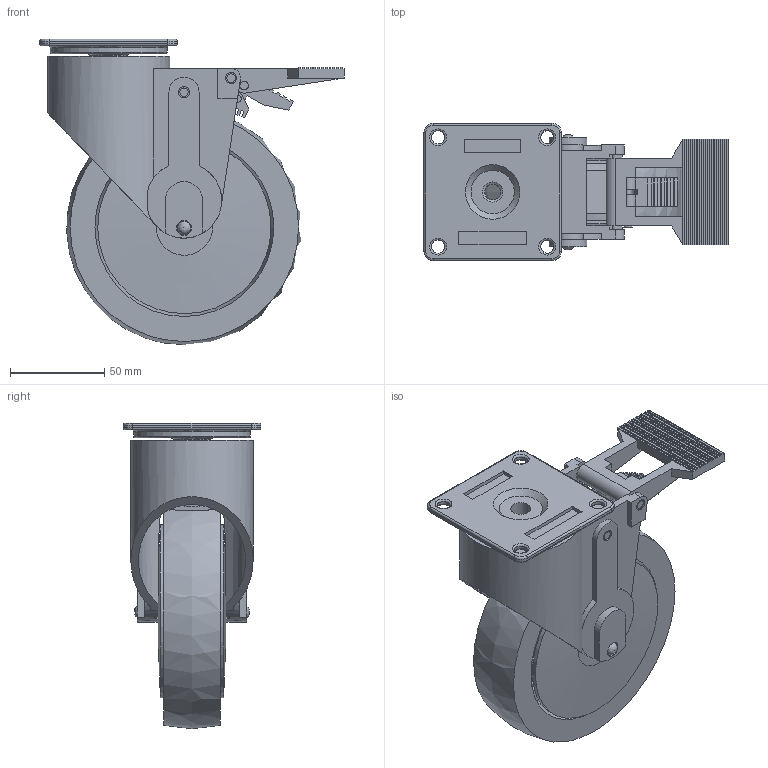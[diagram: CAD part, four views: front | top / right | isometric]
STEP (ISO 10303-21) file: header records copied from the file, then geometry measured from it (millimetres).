
FILE_DESCRIPTION((''),'2;1');
FILE_NAME('C:\Documents and Settings\Administrator\바탕 화면\2011년도\도면 및 견적서 발송\지덕 전체도면\3D도면\GDC\GDC-125-BSF\GDC-125BSF.stp','2012-02-03T09:23:36',('Administrator'),(''),'Autodesk Inventor 2009','Autodesk Inventor 2009','');
FILE_SCHEMA(('AUTOMOTIVE_DESIGN { 1 0 10303 214 1 1 1 1 }'));
Length unit declared in the file: millimetre
Products named in the file (1): GDC-125BSF
Bounding box: 161.5 x 73 x 162.2 mm (x, y, z)
Volume: 423022.9 mm3; surface area: 161704.1 mm2
Topology: 9 solids, 45 shells, 1004 faces, 2788 edges, 1766 vertices
Faces by surface type: plane 604, cylinder 154, cone 79, sphere 75, torus 54, bspline 38
Full cylindrical faces by diameter (mm): 3 x7, 4 x2, 4.5 x4, 6 x4, 7 x4, 8 x5, 8.2 x2, 8.4 x1, 10.7 x1, 12 x4, 18 x5, 19.8 x2, 20 x8, 22 x4, 25 x1, 27 x1, 29 x1, 39 x2, 39.4 x1, 41 x1, 62 x1, 65 x1, 89 x2, 92 x2
Entity records: 30815 total; most frequent: CARTESIAN_POINT 6311, DIRECTION 5277, ORIENTED_EDGE 5014, EDGE_CURVE 2507, AXIS2_PLACEMENT_3D 2018, VERTEX_POINT 1642, EDGE_LOOP 1241, VECTOR 1241
